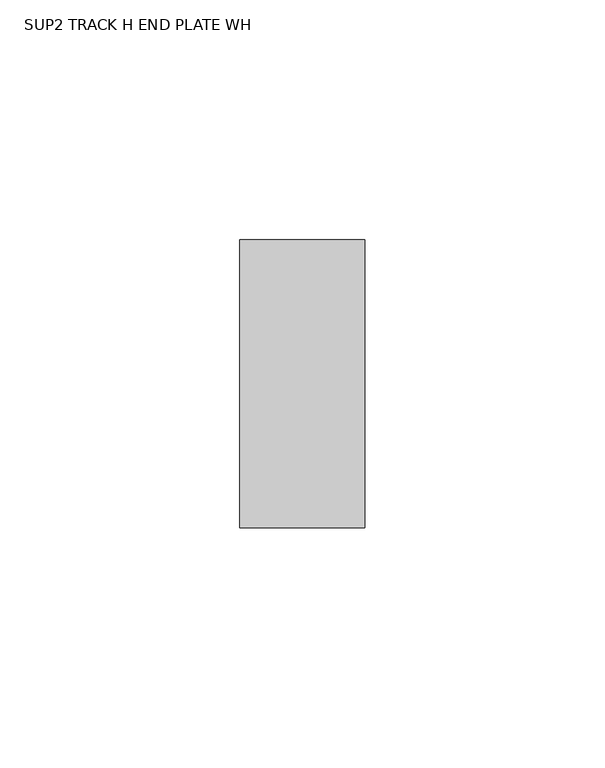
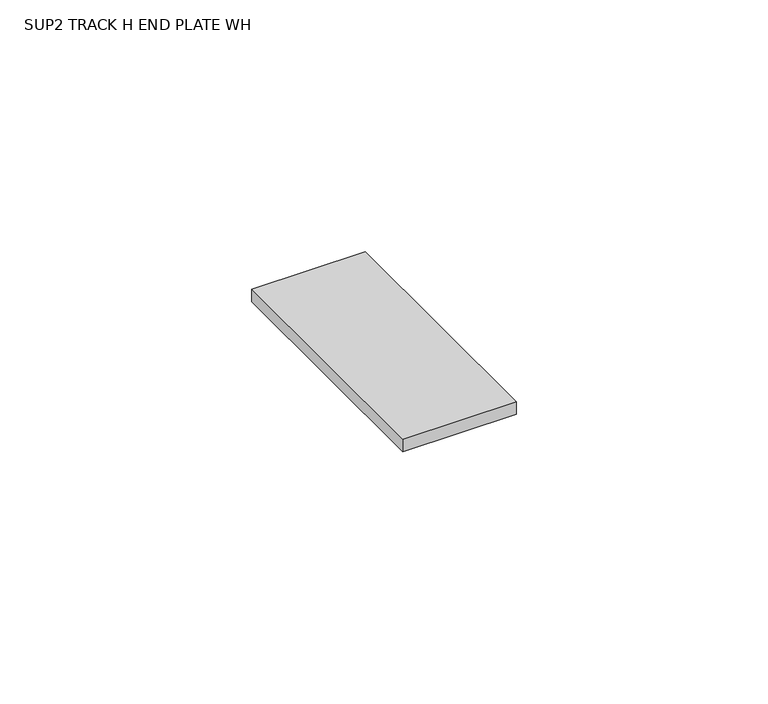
"""IFC4 building model written with IfcOpenShell, lengths in millimetres: light fixture geometry, Zumtobel SUP2 TRACK H END PLATE WH : SUP2 TRACK H END PLATE WH."""

from ifc_helpers import new_model, si_unit, origin, origin_with_axes, place, context, project, spatial, polyline, outline, extrude, source, transform, mapped, element, save


def sup2_track_h_end_plate_wh_7882d16b(model_context):
    return source(origin(), model_context, "Body", "SweptSolid", [
        extrude(outline(polyline([(412.5000048, -30.0), (386.5000048, -30.0), (386.5000048, 30.0), (412.5000048, 30.0), (412.5000048, -30.0)])), origin_with_axes(), (0.0, 0.0, 1.0), 3.0),
    ])


if __name__ == "__main__":
    model = new_model("IFC4")
    model_context = context("Model", 3, world=origin())
    ifc_project = project(units=[si_unit("LENGTHUNIT", "METRE", prefix="MILLI")], contexts=[model_context])
    site = spatial("IfcSite", under=ifc_project)
    building = spatial("IfcBuilding", under=site)
    placement = place(None, origin())
    sup2_track_h_end_plate_wh_shape = sup2_track_h_end_plate_wh_7882d16b(model_context)
    element("IfcLightFixture", 1, ObjectType="Zumtobel SUP2 TRACK H END PLATE WH : SUP2 TRACK H END PLATE WH", at=placement, inside=building, context=model_context, shape_type="MappedRepresentation", body=[
        mapped(sup2_track_h_end_plate_wh_shape, transform((0.0, 0.0, 0.0), x_axis=(1.0, 0.0, 0.0), y_axis=(0.0, 1.0, 0.0), z_axis=(0.0, 0.0, 1.0))),
    ])
    save(model, "model.ifc")
